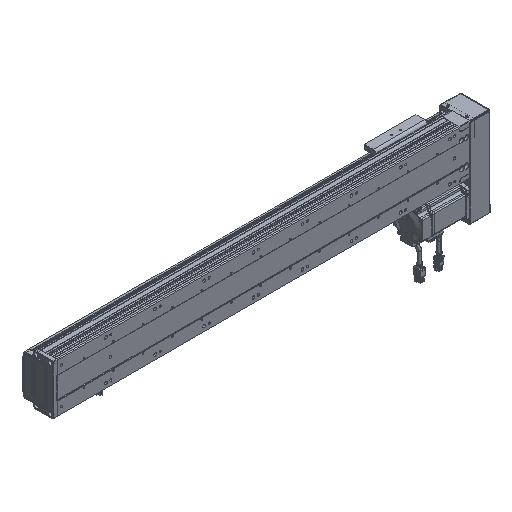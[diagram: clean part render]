
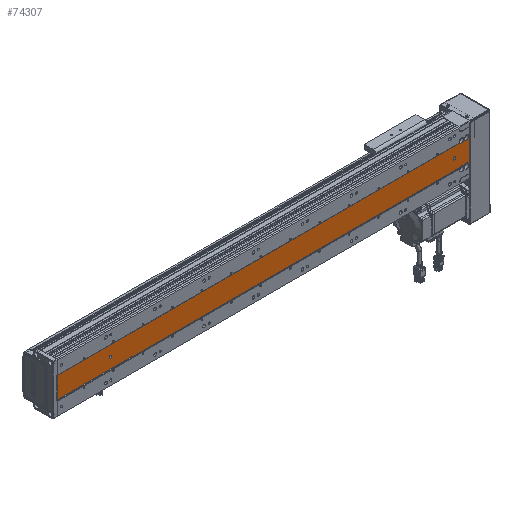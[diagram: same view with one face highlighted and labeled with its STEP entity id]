
A CAD part, isometric view. The second image highlights one B-rep face of the part: STEP entity #74307.
In plain terms, the highlighted planar face has unit normal (0, -1, 0).
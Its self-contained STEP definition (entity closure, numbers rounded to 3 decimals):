
#3540 = VERTEX_POINT ( 'NONE', #66345 ) ;
#3551 = VERTEX_POINT ( 'NONE', #66510 ) ;
#3892 = VERTEX_POINT ( 'NONE', #66558 ) ;
#3963 = VERTEX_POINT ( 'NONE', #66659 ) ;
#3986 = VERTEX_POINT ( 'NONE', #66637 ) ;
#3999 = VERTEX_POINT ( 'NONE', #66707 ) ;
#4003 = VERTEX_POINT ( 'NONE', #66655 ) ;
#4027 = VERTEX_POINT ( 'NONE', #66644 ) ;
#4104 = VERTEX_POINT ( 'NONE', #66672 ) ;
#6464 = AXIS2_PLACEMENT_3D ( 'NONE', #48006, #47982, #47992 ) ;
#6522 = AXIS2_PLACEMENT_3D ( 'NONE', #48103, #48101, #48079 ) ;
#7054 = AXIS2_PLACEMENT_3D ( 'NONE', #87068, #87009, #87056 ) ;
#7069 = AXIS2_PLACEMENT_3D ( 'NONE', #24361, #24310, #24325 ) ;
#7087 = AXIS2_PLACEMENT_3D ( 'NONE', #86688, #86753, #86756 ) ;
#7098 = AXIS2_PLACEMENT_3D ( 'NONE', #87256, #87232, #87212 ) ;
#16532 = AXIS2_PLACEMENT_3D ( 'NONE', #106502, #106545, #106505 ) ;
#17985 = CIRCLE ( 'NONE', #79998, 4.75 ) ;
#19254 = DIRECTION ( 'NONE',  ( 0., 1., 0. ) ) ;
#19276 = DIRECTION ( 'NONE',  ( -1., 0., 0. ) ) ;
#19277 = CARTESIAN_POINT ( 'NONE',  ( 165.403, 89.548, 823. ) ) ;
#19640 = DIRECTION ( 'NONE',  ( 0., 1., 0. ) ) ;
#19645 = CARTESIAN_POINT ( 'NONE',  ( 165.403, 89.548, 833. ) ) ;
#19651 = DIRECTION ( 'NONE',  ( -1., 0., 0. ) ) ;
#20439 = VERTEX_POINT ( 'NONE', #27960 ) ;
#20499 = VERTEX_POINT ( 'NONE', #28003 ) ;
#20528 = VERTEX_POINT ( 'NONE', #28022 ) ;
#20544 = VERTEX_POINT ( 'NONE', #28036 ) ;
#21047 = VERTEX_POINT ( 'NONE', #28296 ) ;
#21072 = VERTEX_POINT ( 'NONE', #28328 ) ;
#24015 = VECTOR ( 'NONE', #24546, 1000. ) ;
#24043 = CIRCLE ( 'NONE', #7069, 2.5 ) ;
#24065 = VECTOR ( 'NONE', #24421, 1000. ) ;
#24073 = LINE ( 'NONE', #24430, #24065 ) ;
#24085 = LINE ( 'NONE', #24589, #24015 ) ;
#24116 = CIRCLE ( 'NONE', #7054, 4.75 ) ;
#24123 = VECTOR ( 'NONE', #86943, 1000. ) ;
#24158 = LINE ( 'NONE', #86935, #24123 ) ;
#24173 = CIRCLE ( 'NONE', #7087, 4.75 ) ;
#24289 = CIRCLE ( 'NONE', #7098, 2.5 ) ;
#24310 = DIRECTION ( 'NONE',  ( 0., -1., 0. ) ) ;
#24325 = DIRECTION ( 'NONE',  ( 1., 0., 0. ) ) ;
#24361 = CARTESIAN_POINT ( 'NONE',  ( 140.403, 89.548, 109. ) ) ;
#24421 = DIRECTION ( 'NONE',  ( 0., 0., -1. ) ) ;
#24430 = CARTESIAN_POINT ( 'NONE',  ( 161.989, 89.548, 839. ) ) ;
#24546 = DIRECTION ( 'NONE',  ( 0., 0., -1. ) ) ;
#24589 = CARTESIAN_POINT ( 'NONE',  ( 118.817, 89.548, 839. ) ) ;
#27960 = CARTESIAN_POINT ( 'NONE',  ( 161.989, 89.548, 836.302 ) ) ;
#28003 = CARTESIAN_POINT ( 'NONE',  ( 161.989, 89.548, 829.698 ) ) ;
#28022 = CARTESIAN_POINT ( 'NONE',  ( 161.989, 89.548, 826.302 ) ) ;
#28036 = CARTESIAN_POINT ( 'NONE',  ( 161.989, 89.548, 819.698 ) ) ;
#28296 = CARTESIAN_POINT ( 'NONE',  ( 142.903, 89.548, 809. ) ) ;
#28328 = CARTESIAN_POINT ( 'NONE',  ( 137.903, 89.548, 109. ) ) ;
#38883 = EDGE_LOOP ( 'NONE', ( #57658, #57656 ) ) ;
#38900 = EDGE_LOOP ( 'NONE', ( #57675, #57732, #57727, #57717, #57706, #57690, #57718, #57673, #57741, #57712, #57701, #57685 ) ) ;
#38999 = EDGE_LOOP ( 'NONE', ( #57663, #57626 ) ) ;
#44031 = CIRCLE ( 'NONE', #79990, 4.75 ) ;
#44776 = CARTESIAN_POINT ( 'NONE',  ( 161.989, 89.548, 839. ) ) ;
#44797 = DIRECTION ( 'NONE',  ( 1., 0., 0. ) ) ;
#44808 = DIRECTION ( 'NONE',  ( 0., 0., -1. ) ) ;
#44840 = CARTESIAN_POINT ( 'NONE',  ( 118.817, 89.548, 839. ) ) ;
#44969 = DIRECTION ( 'NONE',  ( 0., 0., -1. ) ) ;
#45024 = CARTESIAN_POINT ( 'NONE',  ( 118.817, 89.548, 839. ) ) ;
#47703 = CARTESIAN_POINT ( 'NONE',  ( 161.989, 89.548, 839. ) ) ;
#47704 = CARTESIAN_POINT ( 'NONE',  ( 161.989, 89.548, 839. ) ) ;
#47708 = DIRECTION ( 'NONE',  ( 0., 0., -1. ) ) ;
#47716 = DIRECTION ( 'NONE',  ( 0., 0., -1. ) ) ;
#47982 = DIRECTION ( 'NONE',  ( 0., -1., 0. ) ) ;
#47992 = DIRECTION ( 'NONE',  ( 1., 0., 0. ) ) ;
#48006 = CARTESIAN_POINT ( 'NONE',  ( 140.403, 89.548, 109. ) ) ;
#48079 = DIRECTION ( 'NONE',  ( 1., 0., 0. ) ) ;
#48101 = DIRECTION ( 'NONE',  ( 0., -1., 0. ) ) ;
#48103 = CARTESIAN_POINT ( 'NONE',  ( 140.403, 89.548, 809. ) ) ;
#50342 = CIRCLE ( 'NONE', #6464, 2.5 ) ;
#50552 = CIRCLE ( 'NONE', #6522, 2.5 ) ;
#50902 = VECTOR ( 'NONE', #47716, 1000. ) ;
#50980 = VECTOR ( 'NONE', #47708, 1000. ) ;
#50990 = LINE ( 'NONE', #47703, #50980 ) ;
#50997 = LINE ( 'NONE', #47704, #50902 ) ;
#51035 = VECTOR ( 'NONE', #44797, 1000. ) ;
#51140 = LINE ( 'NONE', #44840, #51162 ) ;
#51162 = VECTOR ( 'NONE', #44808, 1000. ) ;
#51168 = LINE ( 'NONE', #44776, #51035 ) ;
#51191 = VECTOR ( 'NONE', #44969, 1000. ) ;
#51256 = LINE ( 'NONE', #45024, #51191 ) ;
#53890 = VERTEX_POINT ( 'NONE', #55285 ) ;
#55285 = CARTESIAN_POINT ( 'NONE',  ( 118.817, 89.548, 836.302 ) ) ;
#57626 = ORIENTED_EDGE ( 'NONE', *, *, #60959, .F. ) ;
#57656 = ORIENTED_EDGE ( 'NONE', *, *, #60937, .F. ) ;
#57658 = ORIENTED_EDGE ( 'NONE', *, *, #62576, .F. ) ;
#57663 = ORIENTED_EDGE ( 'NONE', *, *, #62741, .F. ) ;
#57673 = ORIENTED_EDGE ( 'NONE', *, *, #62703, .T. ) ;
#57675 = ORIENTED_EDGE ( 'NONE', *, *, #61164, .F. ) ;
#57685 = ORIENTED_EDGE ( 'NONE', *, *, #106158, .T. ) ;
#57690 = ORIENTED_EDGE ( 'NONE', *, *, #62653, .T. ) ;
#57701 = ORIENTED_EDGE ( 'NONE', *, *, #61161, .F. ) ;
#57706 = ORIENTED_EDGE ( 'NONE', *, *, #62621, .T. ) ;
#57712 = ORIENTED_EDGE ( 'NONE', *, *, #62696, .T. ) ;
#57717 = ORIENTED_EDGE ( 'NONE', *, *, #61230, .F. ) ;
#57718 = ORIENTED_EDGE ( 'NONE', *, *, #61229, .T. ) ;
#57727 = ORIENTED_EDGE ( 'NONE', *, *, #62611, .F. ) ;
#57732 = ORIENTED_EDGE ( 'NONE', *, *, #106102, .T. ) ;
#57741 = ORIENTED_EDGE ( 'NONE', *, *, #61260, .T. ) ;
#60937 = EDGE_CURVE ( 'NONE', #21072, #3551, #50342, .T. ) ;
#60959 = EDGE_CURVE ( 'NONE', #3540, #21047, #50552, .T. ) ;
#61161 = EDGE_CURVE ( 'NONE', #20544, #3999, #50990, .T. ) ;
#61164 = EDGE_CURVE ( 'NONE', #20499, #20528, #50997, .T. ) ;
#61229 = EDGE_CURVE ( 'NONE', #4003, #3986, #51140, .T. ) ;
#61230 = EDGE_CURVE ( 'NONE', #3892, #3963, #51168, .T. ) ;
#61260 = EDGE_CURVE ( 'NONE', #4104, #4027, #51256, .T. ) ;
#62576 = EDGE_CURVE ( 'NONE', #3551, #21072, #24043, .T. ) ;
#62611 = EDGE_CURVE ( 'NONE', #3963, #20439, #24073, .T. ) ;
#62621 = EDGE_CURVE ( 'NONE', #3892, #53890, #24085, .T. ) ;
#62653 = EDGE_CURVE ( 'NONE', #53890, #4003, #24173, .T. ) ;
#62696 = EDGE_CURVE ( 'NONE', #4027, #3999, #24158, .T. ) ;
#62703 = EDGE_CURVE ( 'NONE', #3986, #4104, #24116, .T. ) ;
#62741 = EDGE_CURVE ( 'NONE', #21047, #3540, #24289, .T. ) ;
#66345 = CARTESIAN_POINT ( 'NONE',  ( 137.903, 89.548, 809. ) ) ;
#66510 = CARTESIAN_POINT ( 'NONE',  ( 142.903, 89.548, 109. ) ) ;
#66558 = CARTESIAN_POINT ( 'NONE',  ( 118.817, 89.548, 839. ) ) ;
#66637 = CARTESIAN_POINT ( 'NONE',  ( 118.817, 89.548, 826.302 ) ) ;
#66644 = CARTESIAN_POINT ( 'NONE',  ( 118.817, 89.548, 0. ) ) ;
#66655 = CARTESIAN_POINT ( 'NONE',  ( 118.817, 89.548, 829.698 ) ) ;
#66659 = CARTESIAN_POINT ( 'NONE',  ( 161.989, 89.548, 839. ) ) ;
#66672 = CARTESIAN_POINT ( 'NONE',  ( 118.817, 89.548, 819.698 ) ) ;
#66707 = CARTESIAN_POINT ( 'NONE',  ( 161.989, 89.548, 0. ) ) ;
#74307 = ADVANCED_FACE ( 'NONE', ( #85544, #85568, #85558 ), #106528, .F. ) ;
#79990 = AXIS2_PLACEMENT_3D ( 'NONE', #19645, #19640, #19651 ) ;
#79998 = AXIS2_PLACEMENT_3D ( 'NONE', #19277, #19254, #19276 ) ;
#85544 = FACE_BOUND ( 'NONE', #38999, .T. ) ;
#85558 = FACE_OUTER_BOUND ( 'NONE', #38900, .T. ) ;
#85568 = FACE_BOUND ( 'NONE', #38883, .T. ) ;
#86688 = CARTESIAN_POINT ( 'NONE',  ( 115.403, 89.548, 833. ) ) ;
#86753 = DIRECTION ( 'NONE',  ( 0., 1., 0. ) ) ;
#86756 = DIRECTION ( 'NONE',  ( -1., 0., 0. ) ) ;
#86935 = CARTESIAN_POINT ( 'NONE',  ( 161.989, 89.548, 0. ) ) ;
#86943 = DIRECTION ( 'NONE',  ( 1., 0., 0. ) ) ;
#87009 = DIRECTION ( 'NONE',  ( 0., 1., 0. ) ) ;
#87056 = DIRECTION ( 'NONE',  ( -1., 0., 0. ) ) ;
#87068 = CARTESIAN_POINT ( 'NONE',  ( 115.403, 89.548, 823. ) ) ;
#87212 = DIRECTION ( 'NONE',  ( 1., 0., 0. ) ) ;
#87232 = DIRECTION ( 'NONE',  ( 0., -1., 0. ) ) ;
#87256 = CARTESIAN_POINT ( 'NONE',  ( 140.403, 89.548, 809. ) ) ;
#106102 = EDGE_CURVE ( 'NONE', #20499, #20439, #44031, .T. ) ;
#106158 = EDGE_CURVE ( 'NONE', #20544, #20528, #17985, .T. ) ;
#106502 = CARTESIAN_POINT ( 'NONE',  ( 161.989, 89.548, 839. ) ) ;
#106505 = DIRECTION ( 'NONE',  ( -1., 0., 0. ) ) ;
#106528 = PLANE ( 'NONE',  #16532 ) ;
#106545 = DIRECTION ( 'NONE',  ( 0., 1., 0. ) ) ;
